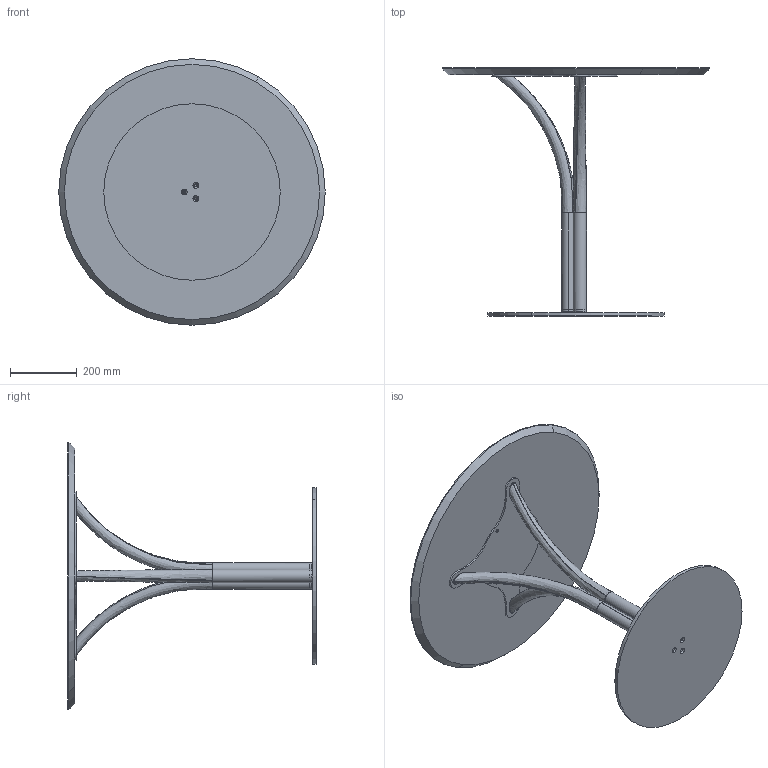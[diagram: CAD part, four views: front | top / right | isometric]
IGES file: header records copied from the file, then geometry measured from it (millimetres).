
Start section: SolidWorks IGES file using analytic representation for surfaces
Global section: file name: Y:\eforma\TECNICO\SOLIDWORKS\E-FORMA\5-TAVOLINI BISTRO\DODÒ\02 parts\DB20W.IGS; native system: SolidWorks 2022; preprocessor: SolidWorks 2022; author: eforma.tech; date: 240808.101426; units: millimetre
Bounding box: 800 x 745 x 800 mm (x, y, z)
Volume: 12788543 mm3; surface area: 2166354 mm2
Topology: 9 solids, 9 shells, 113 faces, 269 edges, 170 vertices
Faces by surface type: revolution 77, plane 24, bspline 12
